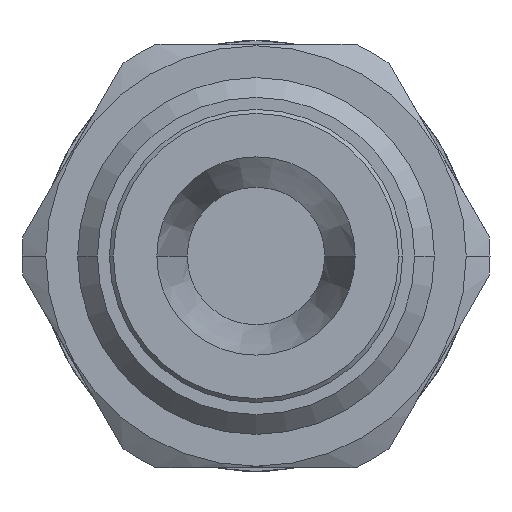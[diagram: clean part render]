
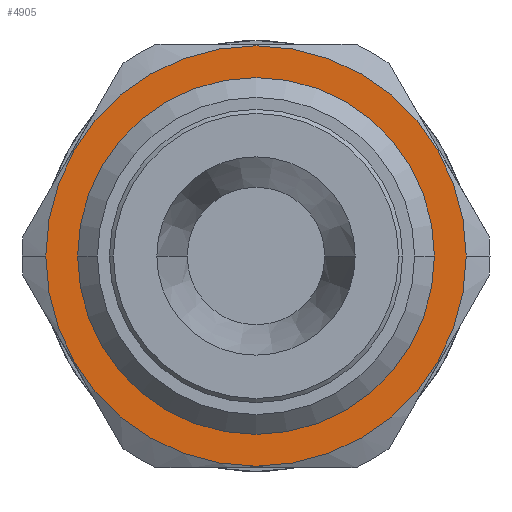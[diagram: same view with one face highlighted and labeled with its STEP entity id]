
A CAD part, left-side view. The second image highlights one B-rep face of the part: STEP entity #4905.
In plain terms, the highlighted planar face has unit normal (-1, 0, 0).
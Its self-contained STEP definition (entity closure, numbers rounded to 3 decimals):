
#1600=CARTESIAN_POINT('',(0.,0.,0.));
#1601=DIRECTION('',(-1.,0.,0.));
#1602=DIRECTION('',(0.,1.,0.));
#1603=AXIS2_PLACEMENT_3D('',#1600,#1601,#1602);
#1608=CARTESIAN_POINT('',(0.,0.,0.));
#1609=DIRECTION('',(1.,0.,0.));
#1610=DIRECTION('',(0.,1.,0.));
#1611=AXIS2_PLACEMENT_3D('',#1608,#1609,#1610);
#1616=CARTESIAN_POINT('',(0.,0.,0.));
#1617=DIRECTION('',(1.,0.,0.));
#1618=DIRECTION('',(0.,1.,0.));
#1619=AXIS2_PLACEMENT_3D('',#1616,#1617,#1618);
#1624=CARTESIAN_POINT('',(0.,0.,0.));
#1625=DIRECTION('',(-1.,0.,0.));
#1626=DIRECTION('',(0.,1.,0.));
#1627=AXIS2_PLACEMENT_3D('',#1624,#1625,#1626);
#3738=CARTESIAN_POINT('',(0.,12.4,0.));
#3740=VERTEX_POINT('',#3738);
#3756=CARTESIAN_POINT('',(0.,-12.4,0.));
#3758=VERTEX_POINT('',#3756);
#3783=CARTESIAN_POINT('',(0.,15.9,0.));
#3785=VERTEX_POINT('',#3783);
#3787=CARTESIAN_POINT('',(0.,-15.9,0.));
#3789=VERTEX_POINT('',#3787);
#4890=CARTESIAN_POINT('',(0.,0.,0.));
#4891=DIRECTION('',(1.,0.,0.));
#4892=DIRECTION('',(0.,-1.,0.));
#4893=AXIS2_PLACEMENT_3D('',#4890,#4891,#4892);
#4894=PLANE('',#4893);
#4896=ORIENTED_EDGE('',*,*,#4895,.T.);
#4898=ORIENTED_EDGE('',*,*,#4897,.F.);
#4899=EDGE_LOOP('',(#4896,#4898));
#4900=FACE_OUTER_BOUND('',#4899,.F.);
#4901=ORIENTED_EDGE('',*,*,#4848,.T.);
#4902=ORIENTED_EDGE('',*,*,#4871,.F.);
#4903=EDGE_LOOP('',(#4901,#4902));
#4904=FACE_BOUND('',#4903,.F.);
#1604=CIRCLE('',#1603,12.4);
#1612=CIRCLE('',#1611,12.4);
#1620=CIRCLE('',#1619,15.9);
#1628=CIRCLE('',#1627,15.9);
#4848=EDGE_CURVE('',#3740,#3758,#1604,.T.);
#4871=EDGE_CURVE('',#3740,#3758,#1612,.T.);
#4895=EDGE_CURVE('',#3785,#3789,#1620,.T.);
#4897=EDGE_CURVE('',#3785,#3789,#1628,.T.);
#4905=ADVANCED_FACE('',(#4900,#4904),#4894,.F.);
